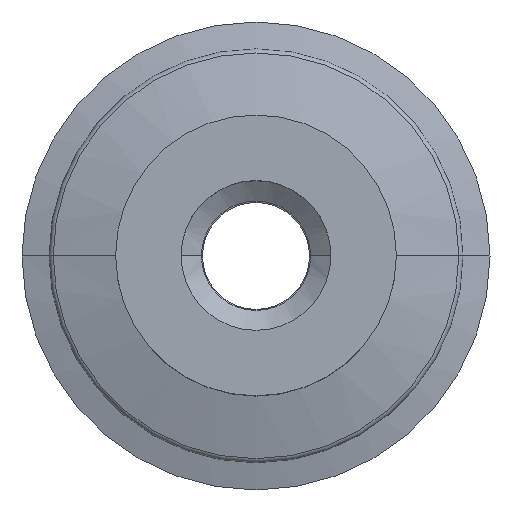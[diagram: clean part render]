
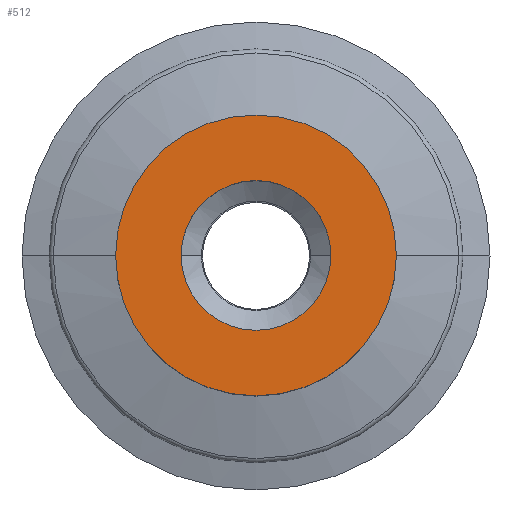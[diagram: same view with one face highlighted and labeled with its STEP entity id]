
A CAD part, top view. The second image highlights one B-rep face of the part: STEP entity #512.
In plain terms, the highlighted planar face has unit normal (0, 0, 1).
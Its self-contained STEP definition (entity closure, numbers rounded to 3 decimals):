
#13 = DIRECTION ( 'NONE',  ( 0., 0., 1. ) ) ;
#19 = VERTEX_POINT ( 'NONE', #707 ) ;
#32 = ORIENTED_EDGE ( 'NONE', *, *, #101, .T. ) ;
#41 = DIRECTION ( 'NONE',  ( 0., 0., 1. ) ) ;
#55 = FACE_BOUND ( 'NONE', #346, .T. ) ;
#57 = AXIS2_PLACEMENT_3D ( 'NONE', #359, #745, #299 ) ;
#95 = DIRECTION ( 'NONE',  ( 1., 0., 0. ) ) ;
#101 = EDGE_CURVE ( 'NONE', #786, #19, #639, .T. ) ;
#119 = ORIENTED_EDGE ( 'NONE', *, *, #276, .F. ) ;
#131 = CARTESIAN_POINT ( 'NONE',  ( 7.5, 0., 0. ) ) ;
#143 = AXIS2_PLACEMENT_3D ( 'NONE', #295, #41, #95 ) ;
#178 = AXIS2_PLACEMENT_3D ( 'NONE', #779, #499, #281 ) ;
#192 = CIRCLE ( 'NONE', #143, 7.5 ) ;
#222 = EDGE_LOOP ( 'NONE', ( #32, #804 ) ) ;
#224 = DIRECTION ( 'NONE',  ( 1., 0., 0. ) ) ;
#241 = DIRECTION ( 'NONE',  ( 1., 0., 0. ) ) ;
#251 = CARTESIAN_POINT ( 'NONE',  ( 0., 0., 0. ) ) ;
#276 = EDGE_CURVE ( 'NONE', #405, #338, #740, .T. ) ;
#281 = DIRECTION ( 'NONE',  ( 1., 0., 0. ) ) ;
#295 = CARTESIAN_POINT ( 'NONE',  ( 0., 0., 0. ) ) ;
#299 = DIRECTION ( 'NONE',  ( -1., 0., 0. ) ) ;
#315 = PLANE ( 'NONE',  #57 ) ;
#317 = ORIENTED_EDGE ( 'NONE', *, *, #383, .F. ) ;
#338 = VERTEX_POINT ( 'NONE', #678 ) ;
#346 = EDGE_LOOP ( 'NONE', ( #317, #119 ) ) ;
#359 = CARTESIAN_POINT ( 'NONE',  ( 0., 0., 0. ) ) ;
#360 = FACE_OUTER_BOUND ( 'NONE', #222, .T. ) ;
#383 = EDGE_CURVE ( 'NONE', #338, #405, #813, .T. ) ;
#405 = VERTEX_POINT ( 'NONE', #668 ) ;
#499 = DIRECTION ( 'NONE',  ( 0., 0., 1. ) ) ;
#512 = ADVANCED_FACE ( 'NONE', ( #55, #360 ), #315, .F. ) ;
#527 = AXIS2_PLACEMENT_3D ( 'NONE', #251, #13, #224 ) ;
#546 = CARTESIAN_POINT ( 'NONE',  ( 0., 0., 0. ) ) ;
#549 = EDGE_CURVE ( 'NONE', #19, #786, #192, .T. ) ;
#639 = CIRCLE ( 'NONE', #527, 7.5 ) ;
#668 = CARTESIAN_POINT ( 'NONE',  ( -4., 0., 0. ) ) ;
#678 = CARTESIAN_POINT ( 'NONE',  ( 4., 0., 0. ) ) ;
#707 = CARTESIAN_POINT ( 'NONE',  ( -7.5, 0., 0. ) ) ;
#740 = CIRCLE ( 'NONE', #178, 4. ) ;
#745 = DIRECTION ( 'NONE',  ( 0., 0., -1. ) ) ;
#779 = CARTESIAN_POINT ( 'NONE',  ( 0., 0., 0. ) ) ;
#786 = VERTEX_POINT ( 'NONE', #131 ) ;
#793 = DIRECTION ( 'NONE',  ( 0., 0., 1. ) ) ;
#804 = ORIENTED_EDGE ( 'NONE', *, *, #549, .T. ) ;
#813 = CIRCLE ( 'NONE', #816, 4. ) ;
#816 = AXIS2_PLACEMENT_3D ( 'NONE', #546, #793, #241 ) ;
